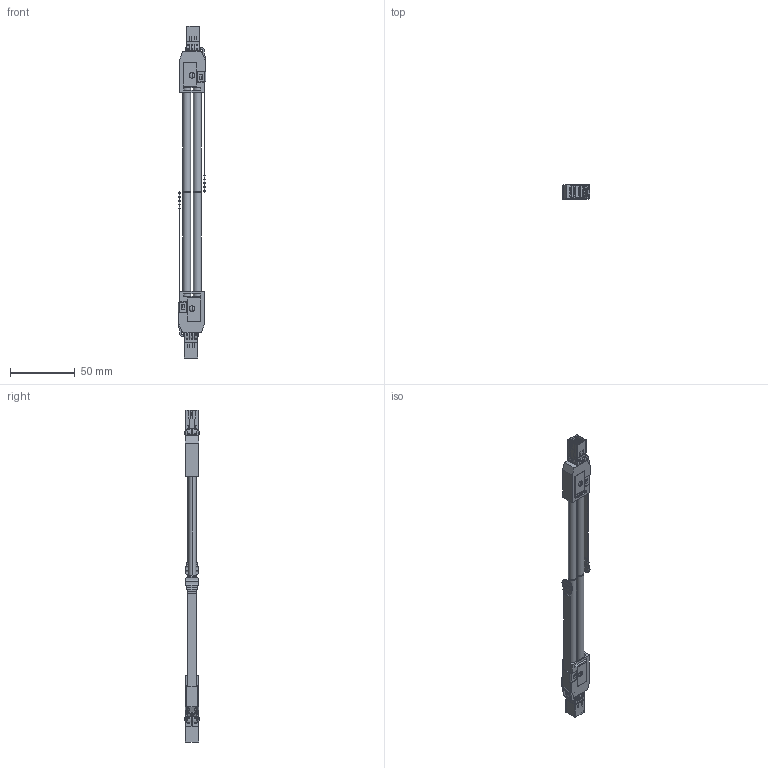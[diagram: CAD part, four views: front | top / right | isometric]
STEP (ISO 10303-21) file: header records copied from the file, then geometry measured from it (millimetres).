
FILE_DESCRIPTION((''),'2;1');
FILE_NAME('C-2202502-2','2016-02-26T',('workeradm'),('Tyco Electronics Ltd.'),'CREO PARAMETRIC BY PTC INC, 2015200','CREO PARAMETRIC BY PTC INC, 2015200','');
FILE_SCHEMA(('AUTOMOTIVE_DESIGN { 1 0 10303 214 1 1 1 1 }'));
Products named in the file (1): C-2202502-2
Bounding box: 21.3 x 11.62 x 255.82 mm (x, y, z)
Volume: 24080 mm3; surface area: 17366.5 mm2
Topology: 2 solids, 2 shells, 1590 faces, 4400 edges, 2876 vertices
Faces by surface type: plane 1108, cylinder 454, torus 20, sphere 8
Entity records: 64567 total; most frequent: CARTESIAN_POINT 10435, ORIENTED_EDGE 8784, DIRECTION 8160, PRESENTATION_STYLE_ASSIGNMENT 4394, STYLED_ITEM 4394, CURVE_STYLE 4392, EDGE_CURVE 4392, VECTOR 3264
